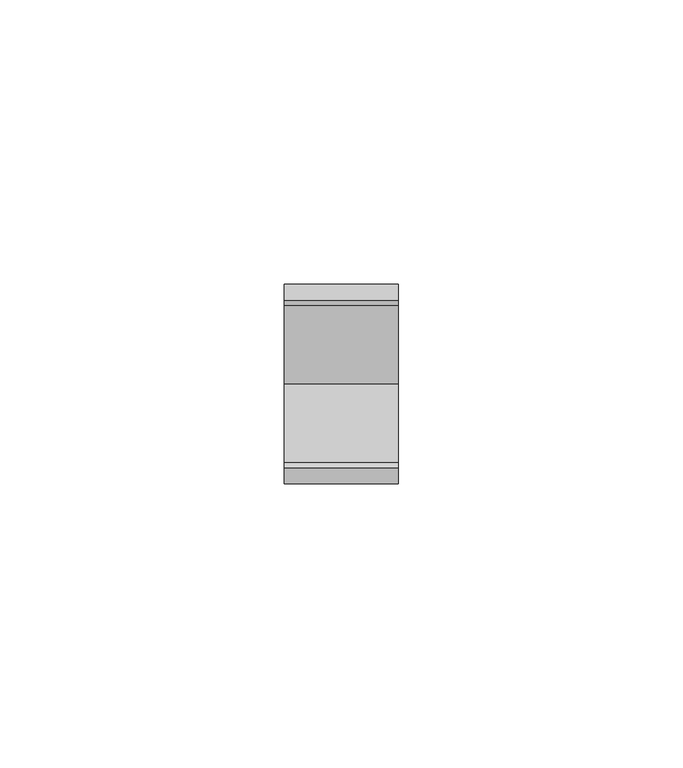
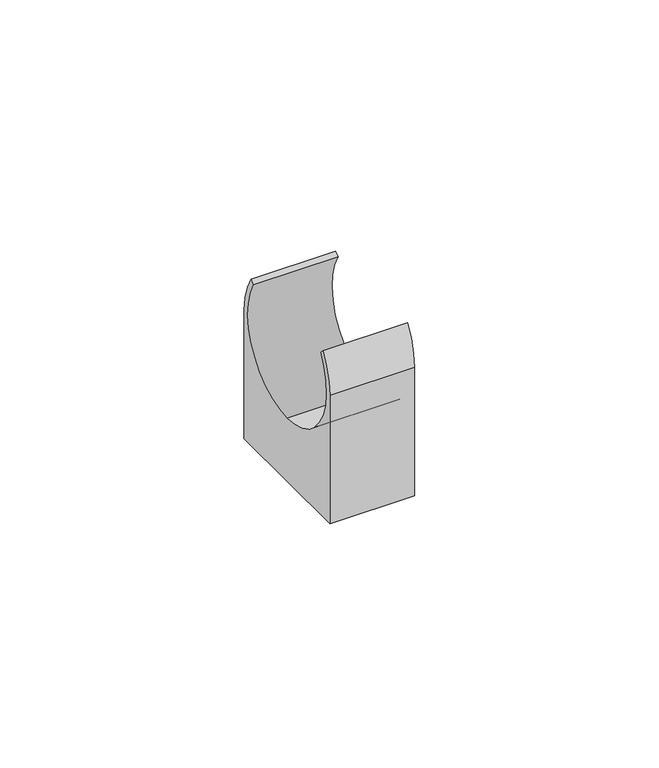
"""IFC4 building model written with IfcOpenShell, lengths in millimetres: cable carrier fitting geometry, Крепеж-клипса_для_труб : Крепеж-клипса для трубы 32мм белая."""

import ifcopenshell
import ifcopenshell.guid

model = None  # the IFC model being written
_history = None  # IfcOwnerHistory: only IFC2X3 demands one
_inside = {}  # id of a spatial element -> (the spatial element, [elements in it])
_under = {}  # id of a project, library or spatial element -> (it, [spatial elements below it])
_declared = {}  # id of a project -> (the project, [libraries it declares])
_typed = {}  # id of a type object -> (the type object, [elements of that type])
_made_of = {}  # id of a material, layer set ... -> (it, [elements and type objects made of it])


def new_model(schema):
    """Start an empty IFC model of exactly this schema.

    Asked for "IFC4X3", IfcOpenShell would pick the latest addendum, in which some entities
    have other attributes; the version numbers below select the first issue.
    IFC2X3 requires an IfcOwnerHistory on every rooted entity: one is made here for all.
    """
    global model, _history
    if schema == "IFC4X3":
        model = ifcopenshell.file(schema_version=(4, 3, 0, 0))
    else:
        model = ifcopenshell.file(schema=schema)
    _inside.clear()
    _under.clear()
    _declared.clear()
    _typed.clear()
    _made_of.clear()
    _history = None
    if model.schema == "IFC2X3":
        org = make("IfcOrganization", Name="unknown")
        user = make(
            "IfcPersonAndOrganization",
            ThePerson=make("IfcPerson", FamilyName="unknown"),
            TheOrganization=org,
        )
        app = make(
            "IfcApplication",
            ApplicationDeveloper=org,
            Version="unknown",
            ApplicationFullName="unknown",
            ApplicationIdentifier="unknown",
        )
        _history = make(
            "IfcOwnerHistory",
            OwningUser=user,
            OwningApplication=app,
            ChangeAction="ADDED",
            CreationDate=0,
        )
    return model


def make(cls, **values):
    """One entity of the class cls with the attributes given. An attribute that is None is left unset."""
    return model.create_entity(
        cls, **{name: value for name, value in values.items() if value is not None}
    )


def rooted(cls, **values):
    """An entity with a GlobalId (a new one), such as an element, a storey or a relation."""
    return make(cls, GlobalId=ifcopenshell.guid.new(), OwnerHistory=_history, **values)


def si_unit(unit_type, name, prefix=None):
    """IfcSIUnit, for example si_unit("LENGTHUNIT", "METRE", prefix="MILLI")."""
    return make("IfcSIUnit", UnitType=unit_type, Prefix=prefix, Name=name)


def assignment(units):
    """IfcUnitAssignment: the units of a project."""
    return None if units is None else make("IfcUnitAssignment", Units=units)


def point(xyz):
    """IfcCartesianPoint."""
    return None if xyz is None else make("IfcCartesianPoint", Coordinates=xyz)


def direction(xyz):
    """IfcDirection."""
    return None if xyz is None else make("IfcDirection", DirectionRatios=xyz)


def frame(location, z_axis=None, x_axis=None):
    """IfcAxis2Placement3D, a coordinate frame: its origin and axes. An axis left out is left unset."""
    return make(
        "IfcAxis2Placement3D",
        Location=point(location),
        Axis=direction(z_axis),
        RefDirection=direction(x_axis),
    )


def frame_2d(location, x_axis=None):
    """IfcAxis2Placement2D, a coordinate frame in the plane: its origin and x axis."""
    return make(
        "IfcAxis2Placement2D", Location=point(location), RefDirection=direction(x_axis)
    )


def origin():
    """The frame at (0, 0, 0) with its axes left unset."""
    return frame((0.0, 0.0, 0.0))


def origin_2d():
    """The frame at (0, 0) in the plane with its x axis left unset."""
    return frame_2d((0.0, 0.0))


def place(relative_to, where):
    """IfcLocalPlacement: puts the frame where relative to a parent placement (None: the world)."""
    return make(
        "IfcLocalPlacement", PlacementRelTo=relative_to, RelativePlacement=where
    )


def context(
    kind, dimensions, precision=None, world=None, true_north=None, identifier=None
):
    """IfcGeometricRepresentationContext, for example the 3D "Model" context."""
    return make(
        "IfcGeometricRepresentationContext",
        ContextIdentifier=identifier,
        ContextType=kind,
        CoordinateSpaceDimension=dimensions,
        Precision=precision,
        WorldCoordinateSystem=world,
        TrueNorth=true_north,
    )


def project(units=None, contexts=None):
    """IfcProject with its units and contexts."""
    return rooted(
        "IfcProject",
        Name="project",
        RepresentationContexts=contexts,
        UnitsInContext=assignment(units),
    )


def spatial(cls, under=None, at=None, **own):
    """A site, building, storey or space (cls), placed at a placement, below another one or the project."""
    s = rooted(cls, ObjectPlacement=at, **own)
    if under is not None:
        _under.setdefault(under.id(), (under, []))[1].append(s)
    return s


def polyline(points):
    """IfcPolyline through the points."""
    return make("IfcPolyline", Points=[point(p) for p in points])


def circle_curve(where, radius):
    """IfcCircle in the frame where."""
    return make("IfcCircle", Position=where, Radius=radius)


def trimmed(basis, trim1, trim2, sense, master):
    """IfcTrimmedCurve: the piece of a basis curve between two trims."""
    return make(
        "IfcTrimmedCurve",
        BasisCurve=basis,
        Trim1=trim1,
        Trim2=trim2,
        SenseAgreement=sense,
        MasterRepresentation=master,
    )


def segment(curve, same_sense, transition):
    """IfcCompositeCurveSegment."""
    return make(
        "IfcCompositeCurveSegment",
        Transition=transition,
        SameSense=same_sense,
        ParentCurve=curve,
    )


def composite_curve(segments, self_intersect=None):
    """IfcCompositeCurve: segments joined end to end."""
    return make("IfcCompositeCurve", Segments=segments, SelfIntersect=self_intersect)


def outline(outer, holes=None, kind="AREA"):
    """IfcArbitraryClosedProfileDef: a profile drawn as a closed curve; with holes, ...WithVoids."""
    if holes is None:
        return make("IfcArbitraryClosedProfileDef", ProfileType=kind, OuterCurve=outer)
    return make(
        "IfcArbitraryProfileDefWithVoids",
        ProfileType=kind,
        OuterCurve=outer,
        InnerCurves=holes,
    )


def extrude(swept, where, along, depth):
    """IfcExtrudedAreaSolid: the profile swept, set in the frame where, extruded along a direction by depth."""
    return make(
        "IfcExtrudedAreaSolid",
        SweptArea=swept,
        Position=where,
        ExtrudedDirection=direction(along),
        Depth=depth,
    )


def shape(context_of_items, identifier, shape_type, items):
    """IfcShapeRepresentation: the items that make up one representation, for example the "Body"."""
    return make(
        "IfcShapeRepresentation",
        ContextOfItems=context_of_items,
        RepresentationIdentifier=identifier,
        RepresentationType=shape_type,
        Items=items,
    )


def source(mapping_origin, context_of_items, identifier, shape_type, items):
    """IfcRepresentationMap: a shape defined once, which mapped items show again and again."""
    return make(
        "IfcRepresentationMap",
        MappingOrigin=mapping_origin,
        MappedRepresentation=shape(context_of_items, identifier, shape_type, items),
    )


def transform(
    local_origin,
    x_axis=None,
    y_axis=None,
    z_axis=None,
    scale=None,
    scale2=None,
    scale3=None,
    uniform=True,
):
    """IfcCartesianTransformationOperator3D, or its non-uniform kind. x_axis, y_axis, z_axis: its Axis1, 2, 3."""
    if uniform:
        return make(
            "IfcCartesianTransformationOperator3D",
            Axis1=direction(x_axis),
            Axis2=direction(y_axis),
            LocalOrigin=point(local_origin),
            Scale=scale,
            Axis3=direction(z_axis),
        )
    return make(
        "IfcCartesianTransformationOperator3DnonUniform",
        Axis1=direction(x_axis),
        Axis2=direction(y_axis),
        LocalOrigin=point(local_origin),
        Scale=scale,
        Axis3=direction(z_axis),
        Scale2=scale2,
        Scale3=scale3,
    )


def mapped(mapping_source, mapping_target):
    """IfcMappedItem: shows the shape of a source again, moved by a transform."""
    return make(
        "IfcMappedItem", MappingSource=mapping_source, MappingTarget=mapping_target
    )


def made_of(thing, what):
    """Note that an element or type object is made of a material, layer set ...; save() writes the relation."""
    if what is not None:
        _made_of.setdefault(what.id(), (what, []))[1].append(thing)
    return thing


def element(
    cls,
    number,
    at=None,
    inside=None,
    cuts=None,
    type_object=None,
    material=None,
    context=None,
    identifier="Body",
    shape_type=None,
    held_by="IfcProductDefinitionShape",
    body=None,
    shapes=None,
    **own,
):
    """One element of the class cls, such as IfcWall. Its Tag is "e" and its number.

    at: its placement. inside: the storey or other place that contains it. cuts: it is an
    opening in that element (IfcRelVoidsElement). A single representation is given by context,
    identifier, shape_type and body (its items); several are given by shapes. held_by: the class
    of the entity that holds the representations. save() writes the other relations.
    """
    e = rooted(cls, Tag="e%d" % number, ObjectPlacement=at, **own)
    if body is not None:
        shapes = [shape(context, identifier, shape_type, body)]
    if shapes is not None:
        e.Representation = make(held_by, Representations=shapes)
    if inside is not None:
        _inside.setdefault(inside.id(), (inside, []))[1].append(e)
    if cuts is not None:
        rooted(
            "IfcRelVoidsElement", RelatingBuildingElement=cuts, RelatedOpeningElement=e
        )
    if type_object is not None:
        _typed.setdefault(type_object.id(), (type_object, []))[1].append(e)
    return made_of(e, material)


def aggregate(whole, parts):
    """IfcRelAggregates: a whole, such as a stair, and the parts it consists of."""
    return rooted("IfcRelAggregates", RelatingObject=whole, RelatedObjects=parts)


def save(model, path):
    """Write the relations noted so far, then the file.

    IfcRelAggregates (storeys below a building ...), IfcRelContainedInSpatialStructure (elements
    in a storey), IfcRelDefinesByType, IfcRelAssociatesMaterial and IfcRelDeclares: one each for
    every whole, place, type object, material and project.
    """
    for whole, parts in _under.values():
        aggregate(whole, parts)
    for where, things in _inside.values():
        rooted(
            "IfcRelContainedInSpatialStructure",
            RelatedElements=things,
            RelatingStructure=where,
        )
    for kind, things in _typed.values():
        rooted("IfcRelDefinesByType", RelatedObjects=things, RelatingType=kind)
    for what, things in _made_of.values():
        rooted("IfcRelAssociatesMaterial", RelatedObjects=things, RelatingMaterial=what)
    for by, libraries in _declared.values():
        rooted("IfcRelDeclares", RelatingContext=by, RelatedDefinitions=libraries)
    model.write(path)


def cable_carrier_fitting_b63e1f67(model_context):
    return source(origin(), model_context, "Body", "SweptSolid", [
        extrude(outline(composite_curve([segment(trimmed(circle_curve(origin_2d(), 16.2678513), [point((0.0, -16.2678513))], [point((13.8243712, 8.5749489))], True, "CARTESIAN"), True, "CONTINUOUS"), segment(polyline([(13.8243712, 8.5749489), (14.7175144, 9.4680922)]), True, "CONTINUOUS"), segment(trimmed(circle_curve(origin_2d(), 17.5), [point((14.7175144, 9.4680922))], [point((17.5, 0.0))], False, "CARTESIAN"), True, "CONTINUOUS"), segment(polyline([(17.5, 0.0), (17.5, -32.0), (-17.5, -32.0), (-17.5, 0.0)]), True, "CONTINUOUS"), segment(trimmed(circle_curve(origin_2d(), 17.5), [point((-17.5, 0.0))], [point((-14.7175144, 9.4680922))], False, "CARTESIAN"), True, "CONTINUOUS"), segment(polyline([(-14.7175144, 9.4680922), (-13.8243712, 8.5749489)]), True, "CONTINUOUS"), segment(trimmed(circle_curve(origin_2d(), 16.2678513), [point((-13.8243712, 8.5749489))], [point((0.0, -16.2678513))], True, "CARTESIAN"), True, "CONTINUOUS")], self_intersect=False)), frame((-10.0, 0.0, 0.0), z_axis=(1.0, 0.0, 0.0), x_axis=(0.0, 1.0, 0.0)), (0.0, 0.0, 1.0), 20.0),
    ])


if __name__ == "__main__":
    model = new_model("IFC4")
    model_context = context("Model", 3, world=origin())
    ifc_project = project(units=[si_unit("LENGTHUNIT", "METRE", prefix="MILLI")], contexts=[model_context])
    site = spatial("IfcSite", under=ifc_project)
    building = spatial("IfcBuilding", under=site)
    placement = place(None, origin())
    cable_carrier_fitting_shape = cable_carrier_fitting_b63e1f67(model_context)
    element("IfcCableCarrierFitting", 1, ObjectType="Крепеж-клипса_для_труб : Крепеж-клипса для трубы 32мм белая", at=placement, inside=building, context=model_context, shape_type="MappedRepresentation", body=[
        mapped(cable_carrier_fitting_shape, transform((0.0, 0.0, 0.0), x_axis=(1.0, 0.0, 0.0), y_axis=(0.0, 1.0, 0.0), z_axis=(0.0, 0.0, 1.0))),
    ])
    save(model, "model.ifc")
